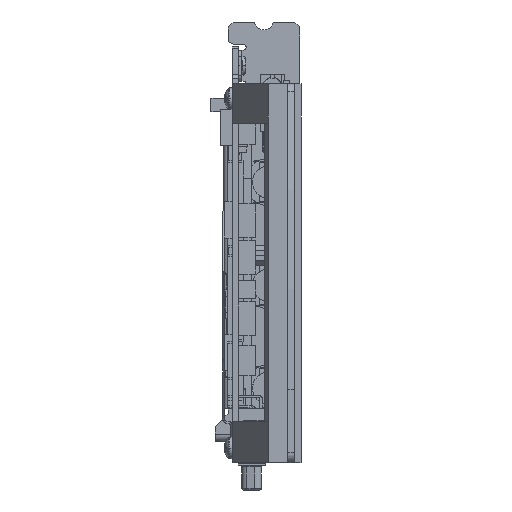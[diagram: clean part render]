
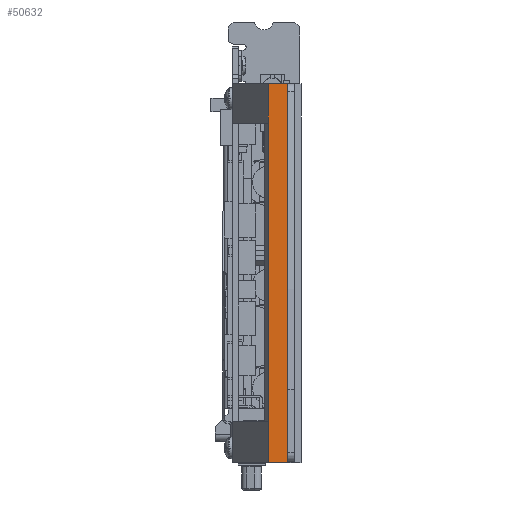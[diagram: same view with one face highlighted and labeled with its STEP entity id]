
A CAD part, front view. The second image highlights one B-rep face of the part: STEP entity #50632.
In plain terms, the highlighted planar face has unit normal (0, -1, 0).
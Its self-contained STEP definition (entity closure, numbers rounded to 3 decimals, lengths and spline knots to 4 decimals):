
#4242=DIRECTION('',(1.,0.,0.));
#4243=VECTOR('',#4242,0.198);
#4244=CARTESIAN_POINT('',(0.364,-12.579,-0.185));
#4245=LINE('',#4244,#4243);
#4335=DIRECTION('',(1.,0.,0.));
#4336=VECTOR('',#4335,0.198);
#4337=CARTESIAN_POINT('',(0.364,-12.579,-4.01));
#4338=LINE('',#4337,#4336);
#4411=DIRECTION('',(0.,0.,1.));
#4412=VECTOR('',#4411,3.825);
#4413=CARTESIAN_POINT('',(0.364,-12.579,-4.01));
#4414=LINE('',#4413,#4412);
#4430=DIRECTION('',(0.,0.,1.));
#4431=VECTOR('',#4430,3.825);
#4432=CARTESIAN_POINT('',(0.562,-12.579,-4.01));
#4433=LINE('',#4432,#4431);
#46778=CARTESIAN_POINT('',(0.364,-12.579,-4.01));
#46779=VERTEX_POINT('',#46778);
#46780=CARTESIAN_POINT('',(0.562,-12.579,-4.01));
#46781=VERTEX_POINT('',#46780);
#46798=CARTESIAN_POINT('',(0.364,-12.579,-0.185));
#46799=VERTEX_POINT('',#46798);
#46800=CARTESIAN_POINT('',(0.562,-12.579,-0.185));
#46801=VERTEX_POINT('',#46800);
#50620=CARTESIAN_POINT('',(0.364,-12.579,-4.01));
#50621=DIRECTION('',(0.,-1.,0.));
#50622=DIRECTION('',(1.,0.,0.));
#50623=AXIS2_PLACEMENT_3D('',#50620,#50621,#50622);
#50624=PLANE('',#50623);
#50625=ORIENTED_EDGE('',*,*,#50553,.F.);
#50626=ORIENTED_EDGE('',*,*,#50598,.T.);
#50627=ORIENTED_EDGE('',*,*,#50346,.T.);
#50629=ORIENTED_EDGE('',*,*,#50628,.F.);
#50630=EDGE_LOOP('',(#50625,#50626,#50627,#50629));
#50631=FACE_OUTER_BOUND('',#50630,.F.);
#50632=ADVANCED_FACE('',(#50631),#50624,.T.);
#50346=EDGE_CURVE('',#46799,#46801,#4245,.T.);
#50553=EDGE_CURVE('',#46779,#46781,#4338,.T.);
#50598=EDGE_CURVE('',#46779,#46799,#4414,.T.);
#50628=EDGE_CURVE('',#46781,#46801,#4433,.T.);
